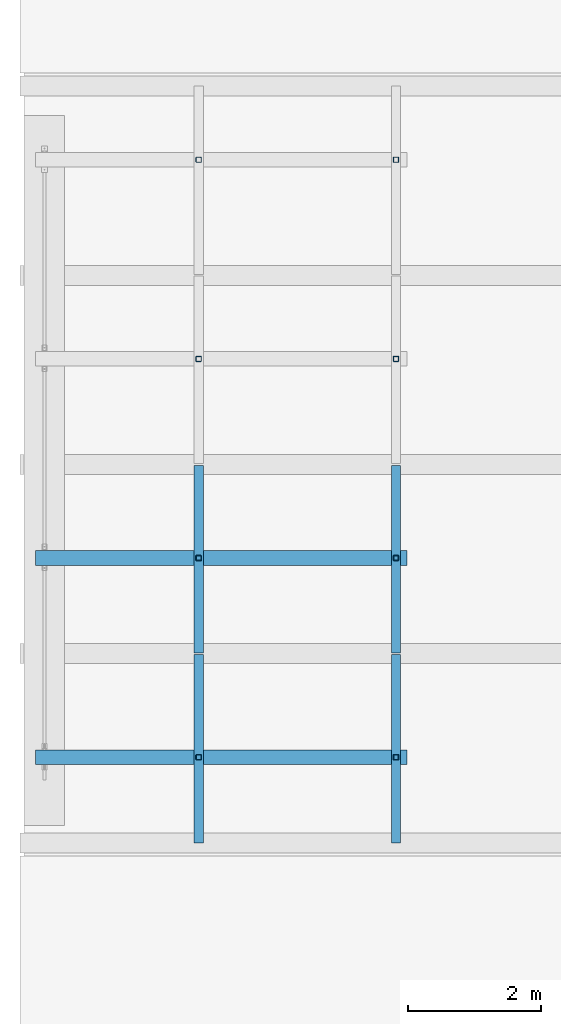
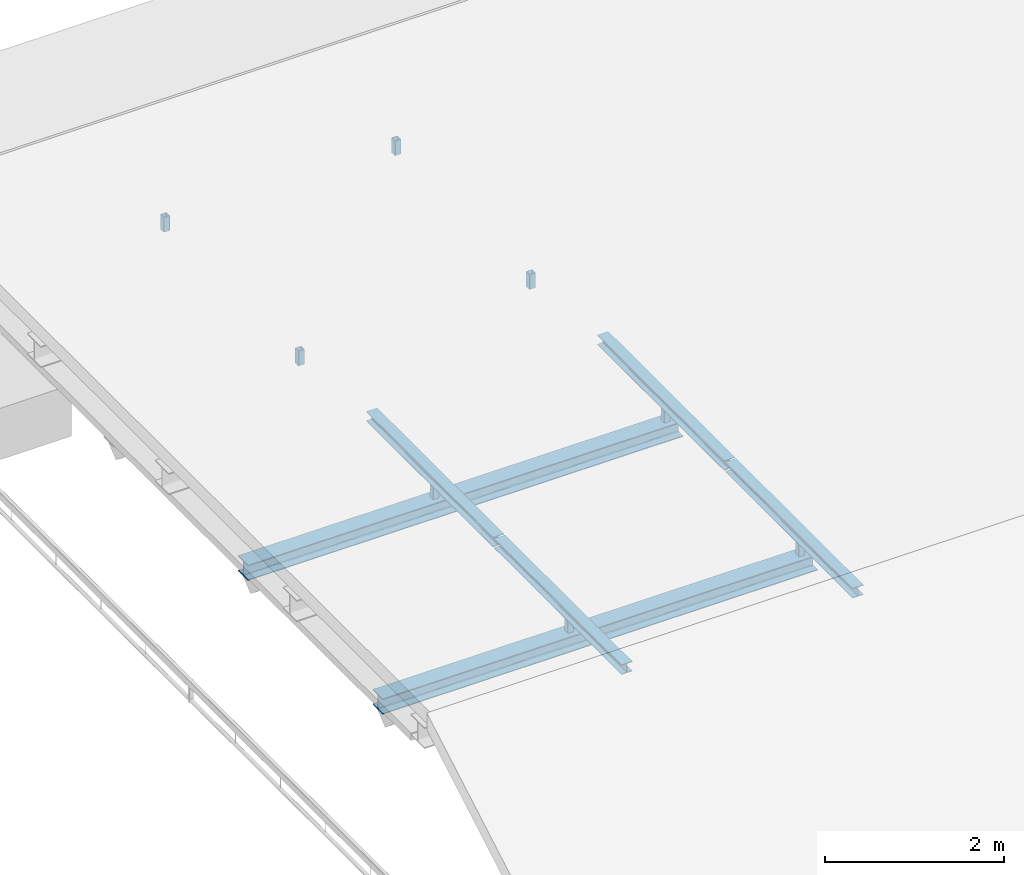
# One storey, part 1 of 3: 8 columns, 6 beams.
"""IFC2X3 building model written with IfcOpenShell, lengths in millimetres."""

import ifcopenshell
import ifcopenshell.guid

model = None  # the IFC model being written
_history = None  # IfcOwnerHistory: only IFC2X3 demands one
_inside = {}  # id of a spatial element -> (the spatial element, [elements in it])
_under = {}  # id of a project, library or spatial element -> (it, [spatial elements below it])
_declared = {}  # id of a project -> (the project, [libraries it declares])
_typed = {}  # id of a type object -> (the type object, [elements of that type])
_made_of = {}  # id of a material, layer set ... -> (it, [elements and type objects made of it])


def new_model(schema):
    """Start an empty IFC model of exactly this schema.

    Asked for "IFC4X3", IfcOpenShell would pick the latest addendum, in which some entities
    have other attributes; the version numbers below select the first issue.
    IFC2X3 requires an IfcOwnerHistory on every rooted entity: one is made here for all.
    """
    global model, _history
    if schema == "IFC4X3":
        model = ifcopenshell.file(schema_version=(4, 3, 0, 0))
    else:
        model = ifcopenshell.file(schema=schema)
    _inside.clear()
    _under.clear()
    _declared.clear()
    _typed.clear()
    _made_of.clear()
    _history = None
    if model.schema == "IFC2X3":
        org = make("IfcOrganization", Name="unknown")
        user = make(
            "IfcPersonAndOrganization",
            ThePerson=make("IfcPerson", FamilyName="unknown"),
            TheOrganization=org,
        )
        app = make(
            "IfcApplication",
            ApplicationDeveloper=org,
            Version="unknown",
            ApplicationFullName="unknown",
            ApplicationIdentifier="unknown",
        )
        _history = make(
            "IfcOwnerHistory",
            OwningUser=user,
            OwningApplication=app,
            ChangeAction="ADDED",
            CreationDate=0,
        )
    return model


def make(cls, **values):
    """One entity of the class cls with the attributes given. An attribute that is None is left unset."""
    return model.create_entity(
        cls, **{name: value for name, value in values.items() if value is not None}
    )


def entity(cls, *values):
    """Any entity or typed value of the class cls, its attributes in the order of the schema. None: left unset."""
    e = model.create_entity(cls)
    for i, value in enumerate(values):
        if value is not None:
            e[i] = value
    return e


def rooted(cls, **values):
    """An entity with a GlobalId (a new one), such as an element, a storey or a relation."""
    return make(cls, GlobalId=ifcopenshell.guid.new(), OwnerHistory=_history, **values)


def si_unit(unit_type, name, prefix=None):
    """IfcSIUnit, for example si_unit("LENGTHUNIT", "METRE", prefix="MILLI")."""
    return make("IfcSIUnit", UnitType=unit_type, Prefix=prefix, Name=name)


def converted_unit(unit_type, name, factor, base, dimensions=None, offset=None):
    """IfcConversionBasedUnit, such as the inch: factor (a typed value) times the base unit."""
    return make(
        "IfcConversionBasedUnit"
        if offset is None
        else "IfcConversionBasedUnitWithOffset",
        ConversionOffset=offset,
        Dimensions=None
        if dimensions is None
        else entity("IfcDimensionalExponents", *dimensions),
        UnitType=unit_type,
        Name=name,
        ConversionFactor=make(
            "IfcMeasureWithUnit", ValueComponent=factor, UnitComponent=base
        ),
    )


def assignment(units):
    """IfcUnitAssignment: the units of a project."""
    return None if units is None else make("IfcUnitAssignment", Units=units)


def point(xyz):
    """IfcCartesianPoint."""
    return None if xyz is None else make("IfcCartesianPoint", Coordinates=xyz)


def direction(xyz):
    """IfcDirection."""
    return None if xyz is None else make("IfcDirection", DirectionRatios=xyz)


def frame(location, z_axis=None, x_axis=None):
    """IfcAxis2Placement3D, a coordinate frame: its origin and axes. An axis left out is left unset."""
    return make(
        "IfcAxis2Placement3D",
        Location=point(location),
        Axis=direction(z_axis),
        RefDirection=direction(x_axis),
    )


def frame_2d(location, x_axis=None):
    """IfcAxis2Placement2D, a coordinate frame in the plane: its origin and x axis."""
    return make(
        "IfcAxis2Placement2D", Location=point(location), RefDirection=direction(x_axis)
    )


def origin():
    """The frame at (0, 0, 0) with its axes left unset."""
    return frame((0.0, 0.0, 0.0))


def place(relative_to, where):
    """IfcLocalPlacement: puts the frame where relative to a parent placement (None: the world)."""
    return make(
        "IfcLocalPlacement", PlacementRelTo=relative_to, RelativePlacement=where
    )


def context(
    kind, dimensions, precision=None, world=None, true_north=None, identifier=None
):
    """IfcGeometricRepresentationContext, for example the 3D "Model" context."""
    return make(
        "IfcGeometricRepresentationContext",
        ContextIdentifier=identifier,
        ContextType=kind,
        CoordinateSpaceDimension=dimensions,
        Precision=precision,
        WorldCoordinateSystem=world,
        TrueNorth=true_north,
    )


def subcontext(parent, identifier, kind, view, scale=None):
    """IfcGeometricRepresentationSubContext, for example "Body" below "Model"."""
    return make(
        "IfcGeometricRepresentationSubContext",
        ContextIdentifier=identifier,
        ContextType=kind,
        ParentContext=parent,
        TargetScale=scale,
        TargetView=view,
    )


def project(units=None, contexts=None):
    """IfcProject with its units and contexts."""
    return rooted(
        "IfcProject",
        Name="project",
        RepresentationContexts=contexts,
        UnitsInContext=assignment(units),
    )


def spatial(cls, under=None, at=None, **own):
    """A site, building, storey or space (cls), placed at a placement, below another one or the project."""
    s = rooted(cls, ObjectPlacement=at, **own)
    if under is not None:
        _under.setdefault(under.id(), (under, []))[1].append(s)
    return s


def polyline(points):
    """IfcPolyline through the points."""
    return make("IfcPolyline", Points=[point(p) for p in points])


def circle_curve(where, radius):
    """IfcCircle in the frame where."""
    return make("IfcCircle", Position=where, Radius=radius)


def parameter(value):
    """IfcParameterValue: where a trimmed curve begins or ends, as a parameter of its basis curve."""
    return model.create_entity("IfcParameterValue", value)


def trimmed(basis, trim1, trim2, sense, master):
    """IfcTrimmedCurve: the piece of a basis curve between two trims."""
    return make(
        "IfcTrimmedCurve",
        BasisCurve=basis,
        Trim1=trim1,
        Trim2=trim2,
        SenseAgreement=sense,
        MasterRepresentation=master,
    )


def segment(curve, same_sense, transition):
    """IfcCompositeCurveSegment."""
    return make(
        "IfcCompositeCurveSegment",
        Transition=transition,
        SameSense=same_sense,
        ParentCurve=curve,
    )


def composite_curve(segments, self_intersect=None):
    """IfcCompositeCurve: segments joined end to end."""
    return make("IfcCompositeCurve", Segments=segments, SelfIntersect=self_intersect)


def profile(cls, at=None, kind="AREA", **sizes):
    """A parametric profile (cls). Its sizes go by their IFC names, for example OverallWidth=200.0."""
    return make(cls, ProfileType=kind, Position=at, **sizes)


def i_section(**sizes):
    """IfcIShapeProfileDef."""
    return profile("IfcIShapeProfileDef", **sizes)


def outline(outer, holes=None, kind="AREA"):
    """IfcArbitraryClosedProfileDef: a profile drawn as a closed curve; with holes, ...WithVoids."""
    if holes is None:
        return make("IfcArbitraryClosedProfileDef", ProfileType=kind, OuterCurve=outer)
    return make(
        "IfcArbitraryProfileDefWithVoids",
        ProfileType=kind,
        OuterCurve=outer,
        InnerCurves=holes,
    )


def extrude(swept, where, along, depth):
    """IfcExtrudedAreaSolid: the profile swept, set in the frame where, extruded along a direction by depth."""
    return make(
        "IfcExtrudedAreaSolid",
        SweptArea=swept,
        Position=where,
        ExtrudedDirection=direction(along),
        Depth=depth,
    )


def shape(context_of_items, identifier, shape_type, items):
    """IfcShapeRepresentation: the items that make up one representation, for example the "Body"."""
    return make(
        "IfcShapeRepresentation",
        ContextOfItems=context_of_items,
        RepresentationIdentifier=identifier,
        RepresentationType=shape_type,
        Items=items,
    )


def source(mapping_origin, context_of_items, identifier, shape_type, items):
    """IfcRepresentationMap: a shape defined once, which mapped items show again and again."""
    return make(
        "IfcRepresentationMap",
        MappingOrigin=mapping_origin,
        MappedRepresentation=shape(context_of_items, identifier, shape_type, items),
    )


def transform(
    local_origin,
    x_axis=None,
    y_axis=None,
    z_axis=None,
    scale=None,
    scale2=None,
    scale3=None,
    uniform=True,
):
    """IfcCartesianTransformationOperator3D, or its non-uniform kind. x_axis, y_axis, z_axis: its Axis1, 2, 3."""
    if uniform:
        return make(
            "IfcCartesianTransformationOperator3D",
            Axis1=direction(x_axis),
            Axis2=direction(y_axis),
            LocalOrigin=point(local_origin),
            Scale=scale,
            Axis3=direction(z_axis),
        )
    return make(
        "IfcCartesianTransformationOperator3DnonUniform",
        Axis1=direction(x_axis),
        Axis2=direction(y_axis),
        LocalOrigin=point(local_origin),
        Scale=scale,
        Axis3=direction(z_axis),
        Scale2=scale2,
        Scale3=scale3,
    )


def mapped(mapping_source, mapping_target):
    """IfcMappedItem: shows the shape of a source again, moved by a transform."""
    return make(
        "IfcMappedItem", MappingSource=mapping_source, MappingTarget=mapping_target
    )


def material(Name=None, Category=None):
    """IfcMaterial."""
    return make("IfcMaterial", Name=Name, Category=Category)


def made_of(thing, what):
    """Note that an element or type object is made of a material, layer set ...; save() writes the relation."""
    if what is not None:
        _made_of.setdefault(what.id(), (what, []))[1].append(thing)
    return thing


def type_object(cls, material=None, **own):
    """A type object (cls), such as IfcWallType, which elements share."""
    return made_of(rooted(cls, **own), material)


def type_shapes(of_type, sources):
    """Give a type object the sources (RepresentationMaps) that its elements show as mapped items."""
    of_type.RepresentationMaps = sources


def element(
    cls,
    number,
    at=None,
    inside=None,
    cuts=None,
    type_object=None,
    material=None,
    context=None,
    identifier="Body",
    shape_type=None,
    held_by="IfcProductDefinitionShape",
    body=None,
    shapes=None,
    **own,
):
    """One element of the class cls, such as IfcWall. Its Tag is "e" and its number.

    at: its placement. inside: the storey or other place that contains it. cuts: it is an
    opening in that element (IfcRelVoidsElement). A single representation is given by context,
    identifier, shape_type and body (its items); several are given by shapes. held_by: the class
    of the entity that holds the representations. save() writes the other relations.
    """
    e = rooted(cls, Tag="e%d" % number, ObjectPlacement=at, **own)
    if body is not None:
        shapes = [shape(context, identifier, shape_type, body)]
    if shapes is not None:
        e.Representation = make(held_by, Representations=shapes)
    if inside is not None:
        _inside.setdefault(inside.id(), (inside, []))[1].append(e)
    if cuts is not None:
        rooted(
            "IfcRelVoidsElement", RelatingBuildingElement=cuts, RelatedOpeningElement=e
        )
    if type_object is not None:
        _typed.setdefault(type_object.id(), (type_object, []))[1].append(e)
    return made_of(e, material)


def aggregate(whole, parts):
    """IfcRelAggregates: a whole, such as a stair, and the parts it consists of."""
    return rooted("IfcRelAggregates", RelatingObject=whole, RelatedObjects=parts)


def save(model, path):
    """Write the relations noted so far, then the file.

    IfcRelAggregates (storeys below a building ...), IfcRelContainedInSpatialStructure (elements
    in a storey), IfcRelDefinesByType, IfcRelAssociatesMaterial and IfcRelDeclares: one each for
    every whole, place, type object, material and project.
    """
    for whole, parts in _under.values():
        aggregate(whole, parts)
    for where, things in _inside.values():
        rooted(
            "IfcRelContainedInSpatialStructure",
            RelatedElements=things,
            RelatingStructure=where,
        )
    for kind, things in _typed.values():
        rooted("IfcRelDefinesByType", RelatedObjects=things, RelatingType=kind)
    for what, things in _made_of.values():
        rooted("IfcRelAssociatesMaterial", RelatedObjects=things, RelatingMaterial=what)
    for by, libraries in _declared.values():
        rooted("IfcRelDeclares", RelatingContext=by, RelatedDefinitions=libraries)
    model.write(path)


model = new_model("IFC2X3")

# Units and contexts
model_context = context("Model", 3, precision=0.01, world=origin(), true_north=direction((6.123233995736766e-17, 1.0)))
body_context = subcontext(model_context, "Body", "Model", "MODEL_VIEW")
ifc_project = project(units=[si_unit("LENGTHUNIT", "METRE", prefix="MILLI"), si_unit("AREAUNIT", "SQUARE_METRE"), converted_unit("PLANEANGLEUNIT", "DEGREE", entity("IfcPlaneAngleMeasure", 0.017453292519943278), si_unit("PLANEANGLEUNIT", "RADIAN"), dimensions=[0, 0, 0, 0, 0, 0, 0])], contexts=[model_context])

# Site, building, storey
site_placement = place(None, origin())
site = spatial("IfcSite", under=ifc_project, at=site_placement, Name="Default", CompositionType="ELEMENT")
building_placement = place(site_placement, origin())
building = spatial("IfcBuilding", under=site, at=building_placement, CompositionType="ELEMENT")
storey_placement = place(building_placement, frame((0.0, 0.0, 22086.36143577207)))
storey = spatial("IfcBuildingStorey", under=building, at=storey_placement, Name="Dak binnendooszaal", CompositionType="ELEMENT", Elevation=22086.36143577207)

# Columns
ifc_material = material(Name="Staal PBTA")
column_type = type_object("IfcColumnType", Name="Koker-Kolom:K80/80/4CF", PredefinedType="COLUMN", material=ifc_material)
shared_shape = source(origin(), body_context, "Body", "SweptSolid", [
    extrude(outline(composite_curve([segment(polyline([(-32.0, -40.0), (32.0, -40.0)]), True, "CONTINUOUS"), segment(trimmed(circle_curve(frame_2d((32.0, -32.0), x_axis=(-1.0, 0.0)), 7.999999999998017), [parameter(90.00000000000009)], [parameter(180.00000000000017)], True, "PARAMETER"), True, "CONTINUOUS"), segment(polyline([(40.0, -32.0), (40.0, 32.0)]), True, "CONTINUOUS"), segment(trimmed(circle_curve(frame_2d((32.0, 32.0), x_axis=(-1.0, 0.0)), 7.999999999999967), [parameter(180.0)], [parameter(269.99999999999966)], True, "PARAMETER"), True, "CONTINUOUS"), segment(polyline([(32.0, 40.0), (-32.0, 40.0)]), True, "CONTINUOUS"), segment(trimmed(circle_curve(frame_2d((-32.0, 32.0), x_axis=(-1.0, 0.0)), 8.000000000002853), [parameter(269.9999999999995)], [parameter(359.99999999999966)], True, "PARAMETER"), True, "CONTINUOUS"), segment(polyline([(-40.0, 32.0), (-40.0, -32.0)]), True, "CONTINUOUS"), segment(trimmed(circle_curve(frame_2d((-32.0, -32.0), x_axis=(-1.0, 0.0)), 7.999999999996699), [parameter(359.99999999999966)], [parameter(89.99999999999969)], True, "PARAMETER"), True, "CONTINUOUS")], self_intersect=False), holes=[composite_curve([segment(trimmed(circle_curve(frame_2d((-32.0, -32.0), x_axis=(-1.0, 0.0)), 3.9999999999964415), [parameter(0.0)], [parameter(90.00000000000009)], True, "PARAMETER"), False, "CONTINUOUS"), segment(polyline([(-36.0, -32.0), (-36.0, 32.0)]), True, "CONTINUOUS"), segment(trimmed(circle_curve(frame_2d((-32.0, 32.0), x_axis=(-1.0, 0.0)), 3.9999999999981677), [parameter(269.9999999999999)], [parameter(5.088887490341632e-14)], True, "PARAMETER"), False, "CONTINUOUS"), segment(polyline([(-32.0, 36.0), (32.0, 36.0)]), True, "CONTINUOUS"), segment(trimmed(circle_curve(frame_2d((32.0, 32.0), x_axis=(-1.0, 0.0)), 4.000000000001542), [parameter(180.0)], [parameter(270.0)], True, "PARAMETER"), False, "CONTINUOUS"), segment(polyline([(36.0, 32.0), (36.0, -32.0)]), True, "CONTINUOUS"), segment(trimmed(circle_curve(frame_2d((32.0, -32.0), x_axis=(-1.0, 0.0)), 4.000000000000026), [parameter(90.00000000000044)], [parameter(180.00000000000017)], True, "PARAMETER"), False, "CONTINUOUS"), segment(polyline([(32.0, -36.0), (-32.0, -36.0)]), True, "CONTINUOUS")], self_intersect=False)]), frame((0.0, 0.0, 21586.361435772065), z_axis=(0.0, 0.0, 1.0), x_axis=(-1.0, 0.0, 0.0)), (0.0, 0.0, 1.0), 199.99999999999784),
])
type_shapes(column_type, [shared_shape])
for number, where, name in (
    (1, (27983.241295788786, 29122.298876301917, -22086.36143577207), "Koker-Kolom:K80/80/4CF"),
    (2, (30956.290987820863, 29122.29887630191, -22086.36143577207), "Koker-Kolom:K80/80/4CF"),
    (3, (27983.24129578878, 26122.29887630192, -22086.36143577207), "Koker-Kolom:K80/80/4CF"),
    (4, (30956.290987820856, 26122.29887630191, -22086.36143577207), "Koker-Kolom:K80/80/4CF"),
    (5, (27983.241295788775, 23122.298876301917, -22086.36143577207), "Koker-Kolom:K80/80/4CF"),
    (6, (30956.290987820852, 23122.29887630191, -22086.36143577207), "Koker-Kolom:K80/80/4CF"),
    (7, (27983.241295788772, 20122.298876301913, -22086.36143577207), "Koker-Kolom:K80/80/4CF"),
    (8, (30956.29098782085, 20122.298876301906, -22086.36143577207), "Koker-Kolom:K80/80/4CF"),
):
    element("IfcColumn", number, at=place(storey_placement, frame(where)), inside=storey, type_object=column_type, material=ifc_material, Name=name, ObjectType="Koker-Kolom:K80/80/4CF", context=body_context, shape_type="MappedRepresentation", body=[
        mapped(shared_shape, transform((0.0, 0.0, 0.0), scale=1.0)),
    ])

# Beams
beam_type_1 = type_object("IfcBeamType", Name="H-Balk:HEA140", PredefinedType="BEAM")
beam_1_placement = place(storey_placement, frame((30956.29098782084, 21681.167906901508, -157.0), z_axis=(0.0, 0.0, 1.0), x_axis=(0.0, 1.0, 0.0)))
element("IfcBeam", 9, at=beam_1_placement, inside=storey, type_object=beam_type_1, material=ifc_material, Name="H-Balk:HEA140", ObjectType="H-Balk:HEA140", context=body_context, shape_type="SweptSolid", body=[
    extrude(i_section(OverallWidth=139.9999999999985, OverallDepth=133.00000000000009, WebThickness=5.4999999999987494, FlangeThickness=8.5000000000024, FilletRadius=12.000000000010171, at=frame_2d((-2.1600499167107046e-12, -6.494360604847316e-12), x_axis=(0.0, 1.0))), frame((13.0, 0.0, -66.50000000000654), z_axis=(1.0, 0.0, 0.0), x_axis=(0.0, 0.0, -1.0)), (0.0, 0.0, 1.0), 2823.999999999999),
])
beam_2_placement = place(storey_placement, frame((30956.29098782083, 18831.167906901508, -157.0), z_axis=(0.0, 0.0, 1.0), x_axis=(0.0, 1.0, 0.0)))
element("IfcBeam", 10, at=beam_2_placement, inside=storey, type_object=beam_type_1, material=ifc_material, Name="H-Balk:HEA140", ObjectType="H-Balk:HEA140", context=body_context, shape_type="SweptSolid", body=[
    extrude(i_section(OverallWidth=139.9999999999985, OverallDepth=133.00000000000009, WebThickness=5.4999999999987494, FlangeThickness=8.5000000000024, FilletRadius=12.000000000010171, at=frame_2d((-2.1600499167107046e-12, -2.1600499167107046e-12), x_axis=(0.0, 1.0))), frame((0.0, 0.0, -66.50000000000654), z_axis=(1.0, 0.0, 0.0), x_axis=(0.0, 0.0, -1.0)), (0.0, 0.0, 1.0), 2837.0000000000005),
])
beam_3_placement = place(storey_placement, frame((27983.241295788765, 21681.16790690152, -157.0), z_axis=(0.0, 0.0, 1.0), x_axis=(0.0, 1.0, 0.0)))
element("IfcBeam", 11, at=beam_3_placement, inside=storey, type_object=beam_type_1, material=ifc_material, Name="H-Balk:HEA140", ObjectType="H-Balk:HEA140", context=body_context, shape_type="SweptSolid", body=[
    extrude(i_section(OverallWidth=139.9999999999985, OverallDepth=133.00000000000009, WebThickness=5.4999999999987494, FlangeThickness=8.5000000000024, FilletRadius=12.000000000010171, at=frame_2d((-2.1600499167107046e-12, -2.1600499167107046e-12), x_axis=(0.0, 1.0))), frame((13.0, 0.0, -66.50000000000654), z_axis=(1.0, 0.0, 0.0), x_axis=(0.0, 0.0, -1.0)), (0.0, 0.0, 1.0), 2823.999999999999),
])
beam_4_placement = place(storey_placement, frame((27983.241295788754, 18831.167906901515, -157.0), z_axis=(0.0, 0.0, 1.0), x_axis=(0.0, 1.0, 0.0)))
element("IfcBeam", 12, at=beam_4_placement, inside=storey, type_object=beam_type_1, material=ifc_material, Name="H-Balk:HEA140", ObjectType="H-Balk:HEA140", context=body_context, shape_type="SweptSolid", body=[
    extrude(i_section(OverallWidth=139.9999999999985, OverallDepth=133.00000000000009, WebThickness=5.4999999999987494, FlangeThickness=8.5000000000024, FilletRadius=12.000000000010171, at=frame_2d((-2.1600499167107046e-12, -2.1600499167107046e-12), x_axis=(0.0, 1.0))), frame((0.0, 0.0, -66.50000000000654), z_axis=(1.0, 0.0, 0.0), x_axis=(0.0, 0.0, -1.0)), (0.0, 0.0, 1.0), 2837.0000000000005),
])
beam_type_2 = type_object("IfcBeamType", Name="H-Balk:HEA220", PredefinedType="BEAM")
for number, where, name in (
    (13, (25521.592886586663, 23122.298876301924, -500.0), "H-Balk:HEA220"),
    (14, (25521.59288658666, 20122.298876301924, -500.0), "H-Balk:HEA220"),
):
    element("IfcBeam", number, at=place(storey_placement, frame(where)), inside=storey, type_object=beam_type_2, material=ifc_material, Name=name, ObjectType="H-Balk:HEA220", context=body_context, shape_type="SweptSolid", body=[
        extrude(i_section(OverallWidth=220.00000000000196, OverallDepth=209.99999999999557, WebThickness=7.00000000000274, FlangeThickness=10.999999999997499, FilletRadius=18.000000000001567, at=frame_2d((0.0, -2.1671553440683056e-12), x_axis=(0.0, 1.0))), frame((0.0, 0.0, -105.0), z_axis=(1.0, 0.0, 0.0), x_axis=(0.0, 0.0, -1.0)), (0.0, 0.0, 1.0), 5600.000000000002),
    ])

save(model, "model.ifc")
